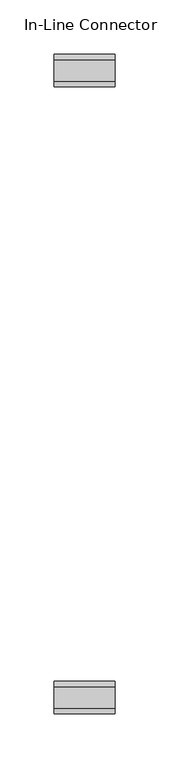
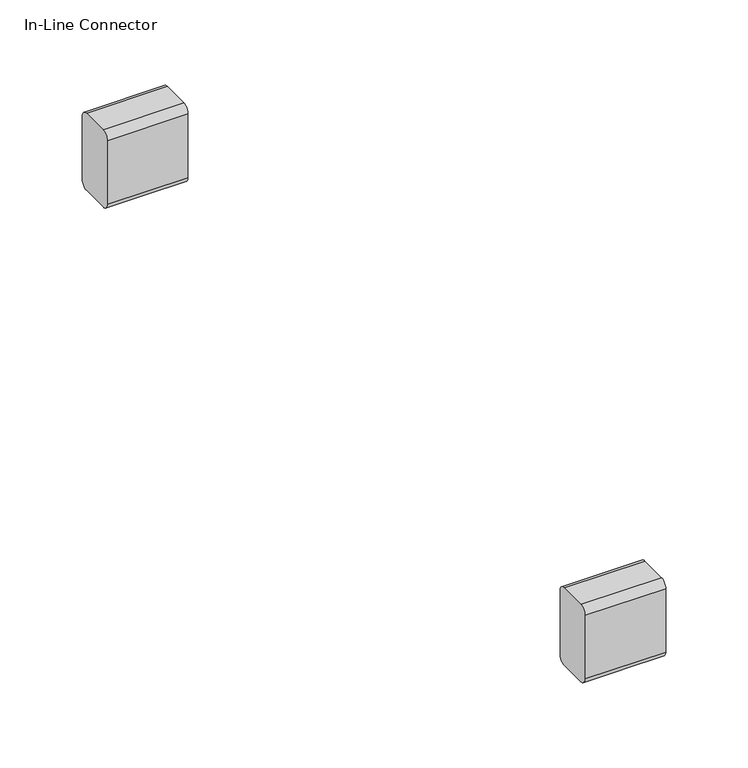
"""IFC4 building model written with IfcOpenShell, lengths in millimetres: furniture geometry, Coalesse_AM_Ensemble_Bench_EndOption : In-Line Connector."""

from ifc_helpers import new_model, si_unit, point, frame, frame_2d, origin, place, context, project, spatial, polyline, circle_curve, trimmed, segment, composite_curve, outline, extrude, source, transform, mapped, element, save


def in_line_connector_5fc101ab(model_context):
    return source(origin(), model_context, "Body", "SweptSolid", [
        extrude(outline(composite_curve([segment(polyline([(127.9503459, 72.8222583), (107.8284915, 72.8222583)]), True, "CONTINUOUS"), segment(trimmed(circle_curve(frame_2d((107.8284915, 77.9022583)), 5.08), [point((107.8284915, 72.8222583))], [point((102.7484915, 77.9022906))], False, "CARTESIAN"), True, "CONTINUOUS"), segment(polyline([(102.7484915, 77.9022906), (102.7487905, 125.0107594)]), True, "CONTINUOUS"), segment(trimmed(circle_curve(frame_2d((107.8287905, 125.0107271)), 5.08), [point((102.7487905, 125.0107594))], [point((107.8287905, 130.0907271))], False, "CARTESIAN"), True, "CONTINUOUS"), segment(polyline([(107.8287905, 130.0907271), (127.9506449, 130.0907271)]), True, "CONTINUOUS"), segment(trimmed(circle_curve(frame_2d((127.9506449, 125.0107271)), 5.08), [point((127.9506449, 130.0907271))], [point((133.0306449, 125.0106949))], False, "CARTESIAN"), True, "CONTINUOUS"), segment(polyline([(133.0306449, 125.0106949), (133.0303459, 77.9022261)]), True, "CONTINUOUS"), segment(trimmed(circle_curve(frame_2d((127.9503459, 77.9022583)), 5.08), [point((133.0303459, 77.9022261))], [point((127.9503459, 72.8222583))], False, "CARTESIAN"), True, "CONTINUOUS")], self_intersect=False)), frame((0.0, 0.0, 0.0), z_axis=(1.0, 0.0, 0.0), x_axis=(0.0, 1.0, 0.0)), (0.0, 0.0, 1.0), 56.5501701),
        extrude(outline(composite_curve([segment(polyline([(708.1725033, 72.8222583), (688.0506489, 72.8222583)]), True, "CONTINUOUS"), segment(trimmed(circle_curve(frame_2d((688.0506489, 77.9022583)), 5.08), [point((688.0506489, 72.8222583))], [point((682.9706489, 77.9022906))], False, "CARTESIAN"), True, "CONTINUOUS"), segment(polyline([(682.9706489, 77.9022906), (682.9709479, 125.0107594)]), True, "CONTINUOUS"), segment(trimmed(circle_curve(frame_2d((688.0509479, 125.0107271)), 5.08), [point((682.9709479, 125.0107594))], [point((688.0509479, 130.0907271))], False, "CARTESIAN"), True, "CONTINUOUS"), segment(polyline([(688.0509479, 130.0907271), (708.1728023, 130.0907271)]), True, "CONTINUOUS"), segment(trimmed(circle_curve(frame_2d((708.1728023, 125.0107271)), 5.08), [point((708.1728023, 130.0907271))], [point((713.2528023, 125.0106949))], False, "CARTESIAN"), True, "CONTINUOUS"), segment(polyline([(713.2528023, 125.0106949), (713.2525033, 77.9022261)]), True, "CONTINUOUS"), segment(trimmed(circle_curve(frame_2d((708.1725033, 77.9022583)), 5.08), [point((713.2525033, 77.9022261))], [point((708.1725033, 72.8222583))], False, "CARTESIAN"), True, "CONTINUOUS")], self_intersect=False)), frame((0.0, 0.0, 0.0), z_axis=(1.0, 0.0, 0.0), x_axis=(0.0, 1.0, 0.0)), (0.0, 0.0, 1.0), 56.5501701),
    ])


if __name__ == "__main__":
    model = new_model("IFC4")
    model_context = context("Model", 3, world=origin())
    ifc_project = project(units=[si_unit("LENGTHUNIT", "METRE", prefix="MILLI")], contexts=[model_context])
    site = spatial("IfcSite", under=ifc_project)
    building = spatial("IfcBuilding", under=site)
    placement = place(None, origin())
    in_line_connector_shape = in_line_connector_5fc101ab(model_context)
    element("IfcFurniture", 1, ObjectType="Coalesse_AM_Ensemble_Bench_EndOption : In-Line Connector", at=placement, inside=building, context=model_context, shape_type="MappedRepresentation", body=[
        mapped(in_line_connector_shape, transform((0.0, 0.0, 0.0), x_axis=(1.0, 0.0, 0.0), y_axis=(0.0, 1.0, 0.0), z_axis=(0.0, 0.0, 1.0))),
    ])
    save(model, "model.ifc")
